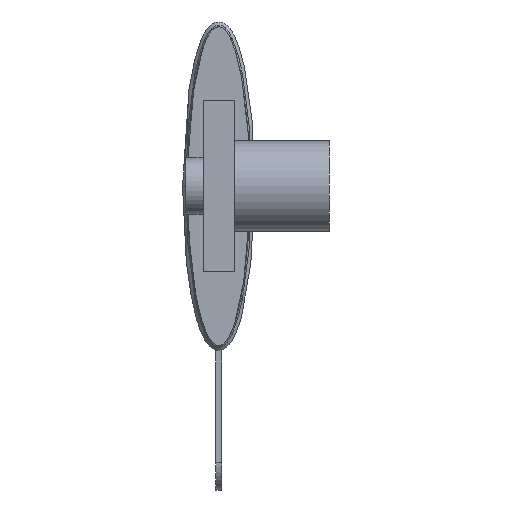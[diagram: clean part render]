
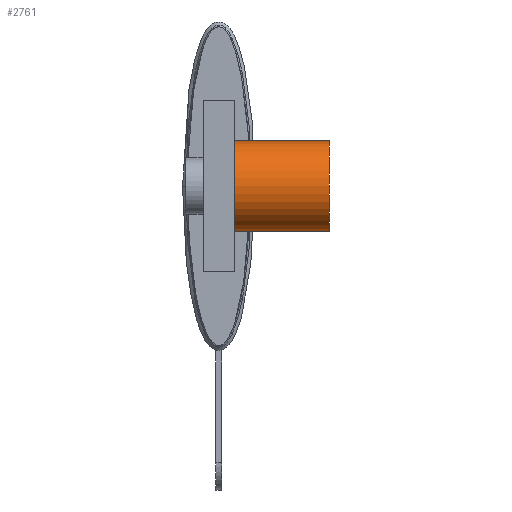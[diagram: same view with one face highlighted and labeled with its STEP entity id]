
A CAD part, left-side view. The second image highlights one B-rep face of the part: STEP entity #2761.
In plain terms, the highlighted cylindrical face has radius 3.97 mm (diameter 7.94 mm), a partial arc.
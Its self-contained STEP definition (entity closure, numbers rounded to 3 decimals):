
#19 = AXIS2_PLACEMENT_3D ( 'NONE', #6188, #6178, #6176 ) ;
#42 = CIRCLE ( 'NONE', #19, 3.97 ) ;
#82 = CARTESIAN_POINT ( 'NONE',  ( -34.925, -1.375, -3.97 ) ) ;
#371 = CARTESIAN_POINT ( 'NONE',  ( -34.925, -9.735, -3.97 ) ) ;
#444 = VECTOR ( 'NONE', #1141, 1000. ) ;
#818 = LINE ( 'NONE', #5076, #444 ) ;
#1141 = DIRECTION ( 'NONE',  ( 0., 1., 0. ) ) ;
#1289 = CIRCLE ( 'NONE', #1303, 3.97 ) ;
#1303 = AXIS2_PLACEMENT_3D ( 'NONE', #3940, #1896, #1406 ) ;
#1406 = DIRECTION ( 'NONE',  ( 0., 0., 1. ) ) ;
#1613 = AXIS2_PLACEMENT_3D ( 'NONE', #1749, #4565, #2215 ) ;
#1749 = CARTESIAN_POINT ( 'NONE',  ( -34.925, -31.375, 0. ) ) ;
#1896 = DIRECTION ( 'NONE',  ( 0., 1., 0. ) ) ;
#2215 = DIRECTION ( 'NONE',  ( 0., 0., 1. ) ) ;
#2259 = CARTESIAN_POINT ( 'NONE',  ( -34.925, -1.375, 3.97 ) ) ;
#2404 = CYLINDRICAL_SURFACE ( 'NONE', #1613, 3.97 ) ;
#2539 = EDGE_CURVE ( 'NONE', #3553, #3651, #1289, .T. ) ;
#2761 = ADVANCED_FACE ( 'NONE', ( #2783 ), #2404, .T. ) ;
#2783 = FACE_OUTER_BOUND ( 'NONE', #3463, .T. ) ;
#2903 = ORIENTED_EDGE ( 'NONE', *, *, #3217, .F. ) ;
#2912 = ORIENTED_EDGE ( 'NONE', *, *, #2539, .T. ) ;
#2914 = ORIENTED_EDGE ( 'NONE', *, *, #3435, .T. ) ;
#2921 = ORIENTED_EDGE ( 'NONE', *, *, #3780, .T. ) ;
#2961 = CARTESIAN_POINT ( 'NONE',  ( -34.925, -31.375, -3.97 ) ) ;
#3217 = EDGE_CURVE ( 'NONE', #3553, #3569, #5349, .T. ) ;
#3435 = EDGE_CURVE ( 'NONE', #3651, #3720, #818, .T. ) ;
#3463 = EDGE_LOOP ( 'NONE', ( #2903, #2912, #2914, #2921 ) ) ;
#3553 = VERTEX_POINT ( 'NONE', #371 ) ;
#3569 = VERTEX_POINT ( 'NONE', #82 ) ;
#3651 = VERTEX_POINT ( 'NONE', #6363 ) ;
#3720 = VERTEX_POINT ( 'NONE', #2259 ) ;
#3780 = EDGE_CURVE ( 'NONE', #3720, #3569, #42, .T. ) ;
#3940 = CARTESIAN_POINT ( 'NONE',  ( -34.925, -9.735, 0. ) ) ;
#4025 = VECTOR ( 'NONE', #4344, 1000. ) ;
#4344 = DIRECTION ( 'NONE',  ( 0., 1., 0. ) ) ;
#4565 = DIRECTION ( 'NONE',  ( 0., 1., 0. ) ) ;
#5076 = CARTESIAN_POINT ( 'NONE',  ( -34.925, -31.375, 3.97 ) ) ;
#5349 = LINE ( 'NONE', #2961, #4025 ) ;
#6176 = DIRECTION ( 'NONE',  ( 0., 0., 1. ) ) ;
#6178 = DIRECTION ( 'NONE',  ( 0., -1., 0. ) ) ;
#6188 = CARTESIAN_POINT ( 'NONE',  ( -34.925, -1.375, 0. ) ) ;
#6363 = CARTESIAN_POINT ( 'NONE',  ( -34.925, -9.735, 3.97 ) ) ;
